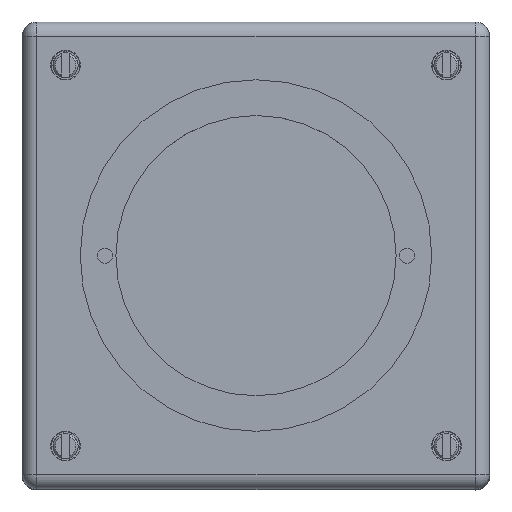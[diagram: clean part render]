
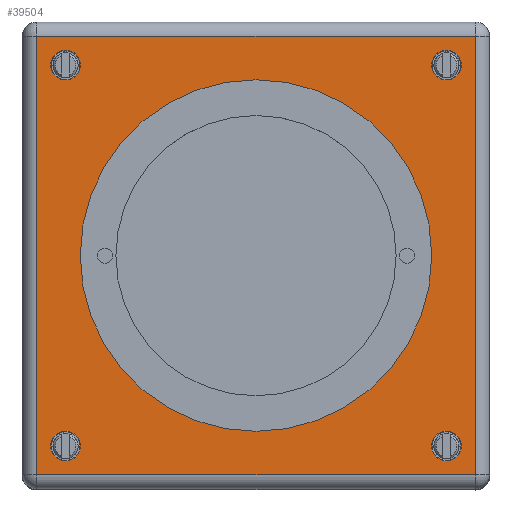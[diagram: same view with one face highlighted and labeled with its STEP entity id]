
A CAD part, top view. The second image highlights one B-rep face of the part: STEP entity #39504.
In plain terms, the highlighted planar face has unit normal (0, 0, 1).
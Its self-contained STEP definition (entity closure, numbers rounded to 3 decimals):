
#4233=LINE('',#72716,#7729);
#4236=LINE('',#72738,#7732);
#4238=LINE('',#72741,#7734);
#4239=LINE('',#72743,#7735);
#7729=VECTOR('',#48841,10.);
#7732=VECTOR('',#48870,10.);
#7734=VECTOR('',#48874,10.);
#7735=VECTOR('',#48877,10.);
#9629=FACE_BOUND('',#13204,.T.);
#9630=FACE_BOUND('',#13205,.T.);
#9631=FACE_BOUND('',#13206,.T.);
#9632=FACE_BOUND('',#13207,.T.);
#9633=FACE_BOUND('',#13208,.T.);
#10997=FACE_OUTER_BOUND('',#13203,.T.);
#13203=EDGE_LOOP('',(#31207,#31208,#31209,#31210));
#13204=EDGE_LOOP('',(#31211));
#13205=EDGE_LOOP('',(#31212));
#13206=EDGE_LOOP('',(#31213));
#13207=EDGE_LOOP('',(#31214));
#13208=EDGE_LOOP('',(#31215));
#14466=CIRCLE('',#42236,2.067);
#14469=CIRCLE('',#42241,2.067);
#14472=CIRCLE('',#42246,2.067);
#14475=CIRCLE('',#42251,2.067);
#14509=CIRCLE('',#42313,24.459);
#17343=VERTEX_POINT('',#72615);
#17346=VERTEX_POINT('',#72624);
#17349=VERTEX_POINT('',#72633);
#17352=VERTEX_POINT('',#72642);
#17368=VERTEX_POINT('',#72696);
#17370=VERTEX_POINT('',#72705);
#17373=VERTEX_POINT('',#72718);
#17377=VERTEX_POINT('',#72729);
#17382=VERTEX_POINT('',#72754);
#22315=EDGE_CURVE('',#17343,#17343,#14466,.T.);
#22319=EDGE_CURVE('',#17346,#17346,#14469,.T.);
#22323=EDGE_CURVE('',#17349,#17349,#14472,.T.);
#22327=EDGE_CURVE('',#17352,#17352,#14475,.T.);
#22362=EDGE_CURVE('',#17368,#17370,#4233,.T.);
#22373=EDGE_CURVE('',#17370,#17377,#4236,.T.);
#22375=EDGE_CURVE('',#17377,#17373,#4238,.T.);
#22376=EDGE_CURVE('',#17373,#17368,#4239,.T.);
#22381=EDGE_CURVE('',#17382,#17382,#14509,.T.);
#31207=ORIENTED_EDGE('',*,*,#22362,.F.);
#31208=ORIENTED_EDGE('',*,*,#22376,.F.);
#31209=ORIENTED_EDGE('',*,*,#22375,.F.);
#31210=ORIENTED_EDGE('',*,*,#22373,.F.);
#31211=ORIENTED_EDGE('',*,*,#22315,.T.);
#31212=ORIENTED_EDGE('',*,*,#22319,.T.);
#31213=ORIENTED_EDGE('',*,*,#22323,.T.);
#31214=ORIENTED_EDGE('',*,*,#22327,.T.);
#31215=ORIENTED_EDGE('',*,*,#22381,.T.);
#36162=PLANE('',#42312);
#39504=ADVANCED_FACE('',(#10997,#9629,#9630,#9631,#9632,#9633),#36162,.T.);
#42236=AXIS2_PLACEMENT_3D('',#72616,#48714,#48715);
#42241=AXIS2_PLACEMENT_3D('',#72625,#48725,#48726);
#42246=AXIS2_PLACEMENT_3D('',#72634,#48736,#48737);
#42251=AXIS2_PLACEMENT_3D('',#72643,#48747,#48748);
#42312=AXIS2_PLACEMENT_3D('',#72753,#48889,#48890);
#42313=AXIS2_PLACEMENT_3D('',#72755,#48891,#48892);
#48714=DIRECTION('center_axis',(0.,0.,-1.));
#48715=DIRECTION('ref_axis',(1.,0.,0.));
#48725=DIRECTION('center_axis',(0.,0.,-1.));
#48726=DIRECTION('ref_axis',(1.,0.,0.));
#48736=DIRECTION('center_axis',(0.,0.,-1.));
#48737=DIRECTION('ref_axis',(1.,0.,0.));
#48747=DIRECTION('center_axis',(0.,0.,-1.));
#48748=DIRECTION('ref_axis',(1.,0.,0.));
#48841=DIRECTION('',(-1.,0.,0.));
#48870=DIRECTION('',(0.,1.,0.));
#48874=DIRECTION('',(1.,0.,0.));
#48877=DIRECTION('',(0.,-1.,0.));
#48889=DIRECTION('center_axis',(0.,0.,1.));
#48890=DIRECTION('ref_axis',(1.,0.,0.));
#48891=DIRECTION('center_axis',(0.,0.,-1.));
#48892=DIRECTION('ref_axis',(1.,0.,0.));
#72615=CARTESIAN_POINT('',(24.433,-26.5,12.));
#72616=CARTESIAN_POINT('Origin',(26.5,-26.5,12.));
#72624=CARTESIAN_POINT('',(-28.567,26.5,12.));
#72625=CARTESIAN_POINT('Origin',(-26.5,26.5,12.));
#72633=CARTESIAN_POINT('',(24.433,26.5,12.));
#72634=CARTESIAN_POINT('Origin',(26.5,26.5,12.));
#72642=CARTESIAN_POINT('',(-28.567,-26.5,12.));
#72643=CARTESIAN_POINT('Origin',(-26.5,-26.5,12.));
#72696=CARTESIAN_POINT('',(30.5,-30.5,12.));
#72705=CARTESIAN_POINT('',(-30.5,-30.5,12.));
#72716=CARTESIAN_POINT('',(16.25,-30.5,12.));
#72718=CARTESIAN_POINT('',(30.5,30.5,12.));
#72729=CARTESIAN_POINT('',(-30.5,30.5,12.));
#72738=CARTESIAN_POINT('',(-30.5,-16.25,12.));
#72741=CARTESIAN_POINT('',(-16.25,30.5,12.));
#72743=CARTESIAN_POINT('',(30.5,16.25,12.));
#72753=CARTESIAN_POINT('Origin',(0.,0.,
12.));
#72754=CARTESIAN_POINT('',(-24.459,0.,12.));
#72755=CARTESIAN_POINT('Origin',(0.,0.,12.));
